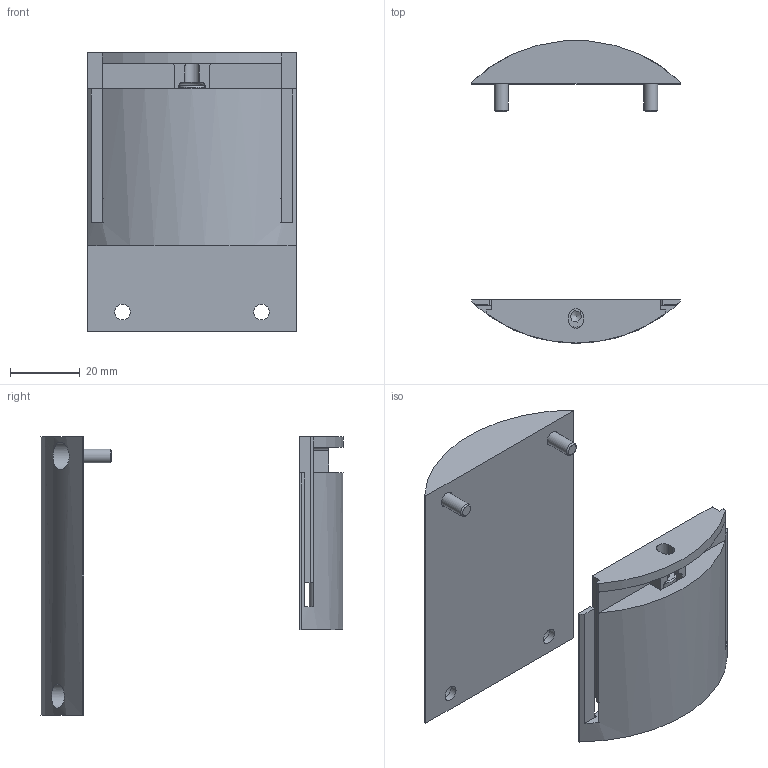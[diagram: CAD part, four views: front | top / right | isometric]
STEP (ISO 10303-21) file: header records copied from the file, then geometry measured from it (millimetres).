
FILE_DESCRIPTION(/* description */ ('Tělo krytu'),/* implementation_level */ '2;1');
FILE_NAME(/* name */ 'SUB-CH87-CMK-M01.stp',/* time_stamp */ '2026-04-14T11:45:25+02:00',/* author */ ('roman'),/* organization */ (''),/* preprocessor_version */ 'ST-DEVELOPER v20',/* originating_system */ 'Autodesk Inventor 2024',/* authorisation */ '');
FILE_SCHEMA (('AUTOMOTIVE_DESIGN { 1 0 10303 214 3 1 1 }'));
Length unit declared in the file: millimetre
Products named in the file (6): SUB-CH87-CMK-M01; CH87-CMK-FXP-M01; CH87-CMK-APT; CH87-CMK-APH; DIN 912 - M4 x 40; ISO 7380-1 - M4 x 10
Assembly tree (6 placements, depth 2):
  SUB-CH87-CMK-M01
    CH87-CMK-FXP-M01
    CH87-CMK-APT
    CH87-CMK-APH
    DIN 912 - M4 x 40
    ISO 7380-1 - M4 x 10  x2
Bounding box: 60.03 x 86.84 x 80 mm (x, y, z)
Volume: 65959.5 mm3; surface area: 26307 mm2
Topology: 6 solids, 6 shells, 134 faces, 341 edges, 224 vertices
Faces by surface type: plane 84, cylinder 36, torus 6, cone 6, bspline 2
Full cylindrical faces by diameter (mm): 3.242 x1, 4 x3, 4.5 x4, 7 x3, 7.6 x2, 8 x2
Entity records: 4008 total; most frequent: CARTESIAN_POINT 834, DIRECTION 631, ORIENTED_EDGE 606, EDGE_CURVE 303, AXIS2_PLACEMENT_3D 218, VERTEX_POINT 200, LINE 195, VECTOR 195
